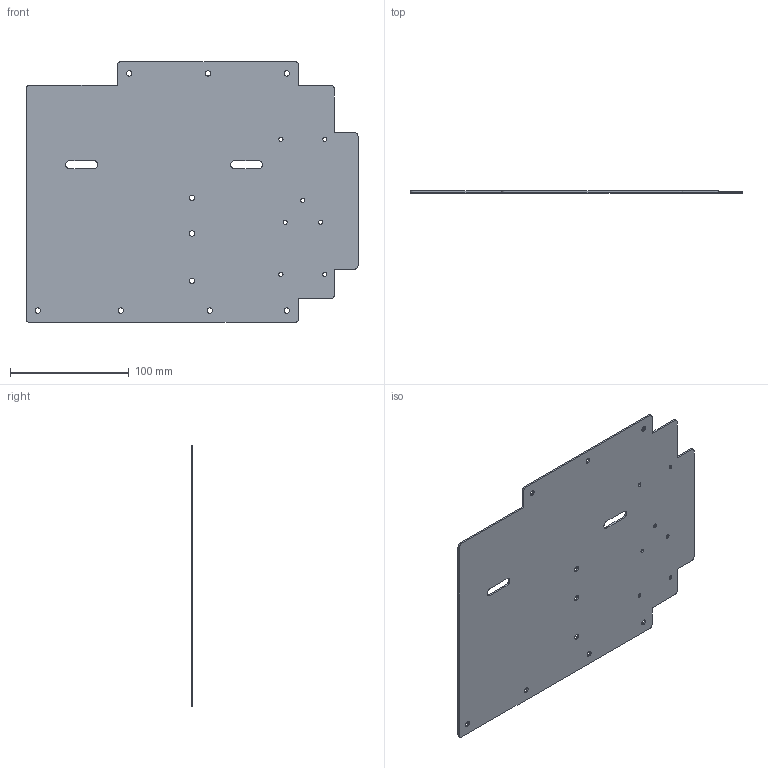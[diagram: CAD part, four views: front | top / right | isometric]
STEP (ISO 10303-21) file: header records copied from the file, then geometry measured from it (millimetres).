
FILE_DESCRIPTION (( 'STEP AP214' ), '1' );
FILE_NAME ('plcÏä-µ×°å.STEP', '2023-05-04T04:24:05', ( 'ay' ), ( '' ), 'SwSTEP 2.0', 'SolidWorks 2020', '' );
FILE_SCHEMA (( 'AUTOMOTIVE_DESIGN' ));
Length unit declared in the file: millimetre
Products named in the file (1): plc箱-底板
Bounding box: 280 x 1.5 x 220 mm (x, y, z)
Volume: 84238.9 mm3; surface area: 114314.6 mm2
Topology: 1 solids, 1 shells, 67 faces, 195 edges, 130 vertices
Faces by surface type: cylinder 47, plane 20
Entity records: 2373 total; most frequent: DIRECTION 425, CARTESIAN_POINT 393, ORIENTED_EDGE 390, EDGE_CURVE 195, AXIS2_PLACEMENT_3D 162, VERTEX_POINT 130, EDGE_LOOP 105, VECTOR 101
